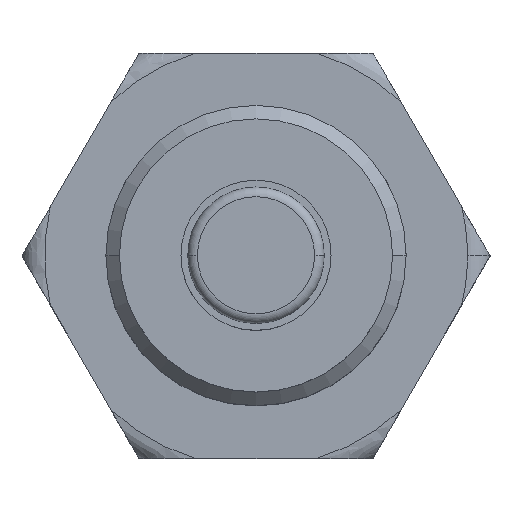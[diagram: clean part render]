
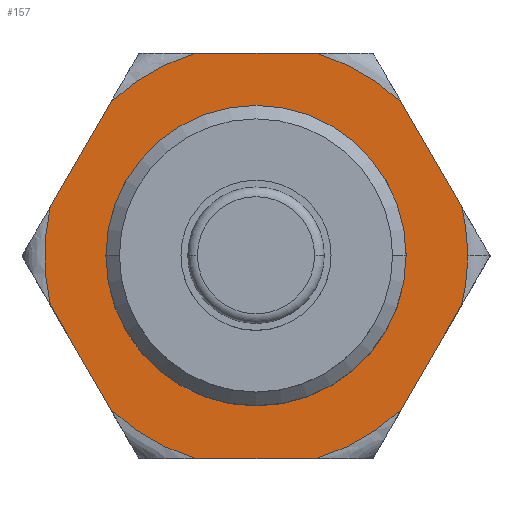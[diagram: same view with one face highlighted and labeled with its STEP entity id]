
A CAD part, top view. The second image highlights one B-rep face of the part: STEP entity #157.
In plain terms, the highlighted planar face has unit normal (0, 0, 1).
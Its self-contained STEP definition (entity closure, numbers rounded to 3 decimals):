
#15 = AXIS2_PLACEMENT_3D ( 'NONE', #610, #923, #129 ) ;
#61 = EDGE_CURVE ( 'NONE', #1448, #1331, #260, .T. ) ;
#81 = CIRCLE ( 'NONE', #384, 14.088 ) ;
#101 = DIRECTION ( 'NONE',  ( 1., 0., 0. ) ) ;
#104 = DIRECTION ( 'NONE',  ( 0.5, -0.866, 0. ) ) ;
#127 = ORIENTED_EDGE ( 'NONE', *, *, #1570, .F. ) ;
#129 = DIRECTION ( 'NONE',  ( 1., 0., 0. ) ) ;
#144 = DIRECTION ( 'NONE',  ( -1., 0., 0. ) ) ;
#157 = ADVANCED_FACE ( 'NONE', ( #2060, #1544 ), #1425, .T. ) ;
#162 = ORIENTED_EDGE ( 'NONE', *, *, #1779, .T. ) ;
#184 = CIRCLE ( 'NONE', #1648, 14.088 ) ;
#198 = VERTEX_POINT ( 'NONE', #588 ) ;
#245 = ORIENTED_EDGE ( 'NONE', *, *, #1022, .T. ) ;
#254 = CIRCLE ( 'NONE', #1928, 14.088 ) ;
#260 = LINE ( 'NONE', #1533, #1710 ) ;
#284 = ORIENTED_EDGE ( 'NONE', *, *, #352, .T. ) ;
#290 = DIRECTION ( 'NONE',  ( 0., 0., 1. ) ) ;
#321 = CARTESIAN_POINT ( 'NONE',  ( 0., 0., 3. ) ) ;
#322 = VECTOR ( 'NONE', #1538, 1000. ) ;
#334 = DIRECTION ( 'NONE',  ( 0., 0., 1. ) ) ;
#348 = CIRCLE ( 'NONE', #1379, 14.088 ) ;
#351 = VECTOR ( 'NONE', #873, 1000. ) ;
#352 = EDGE_CURVE ( 'NONE', #744, #673, #348, .T. ) ;
#384 = AXIS2_PLACEMENT_3D ( 'NONE', #321, #693, #1023 ) ;
#394 = CARTESIAN_POINT ( 'NONE',  ( -13.706, 3.261, 3. ) ) ;
#419 = ORIENTED_EDGE ( 'NONE', *, *, #646, .T. ) ;
#437 = DIRECTION ( 'NONE',  ( 1., 0., 0. ) ) ;
#470 = DIRECTION ( 'NONE',  ( 0., 0., 1. ) ) ;
#478 = DIRECTION ( 'NONE',  ( 1., 0., 0. ) ) ;
#524 = EDGE_CURVE ( 'NONE', #1331, #2013, #184, .T. ) ;
#527 = CARTESIAN_POINT ( 'NONE',  ( 15.588, 0., 3. ) ) ;
#531 = CARTESIAN_POINT ( 'NONE',  ( 0., 0., 3. ) ) ;
#561 = CARTESIAN_POINT ( 'NONE',  ( -9.677, -10.239, 3. ) ) ;
#587 = CIRCLE ( 'NONE', #1952, 10. ) ;
#588 = CARTESIAN_POINT ( 'NONE',  ( -13.706, -3.261, 3. ) ) ;
#602 = EDGE_CURVE ( 'NONE', #1607, #1448, #1026, .T. ) ;
#606 = CARTESIAN_POINT ( 'NONE',  ( 0., 0., 3. ) ) ;
#609 = EDGE_LOOP ( 'NONE', ( #1372, #834, #1200, #284, #162, #720, #1081, #419, #1977, #886, #754, #1090, #245 ) ) ;
#610 = CARTESIAN_POINT ( 'NONE',  ( 0., 0., 3. ) ) ;
#622 = CARTESIAN_POINT ( 'NONE',  ( 15.588, 0., 3. ) ) ;
#631 = CARTESIAN_POINT ( 'NONE',  ( 4.029, 13.5, 3. ) ) ;
#633 = VECTOR ( 'NONE', #104, 1000. ) ;
#635 = CARTESIAN_POINT ( 'NONE',  ( -10., 0., 3. ) ) ;
#643 = CARTESIAN_POINT ( 'NONE',  ( 13.706, 3.261, 3. ) ) ;
#646 = EDGE_CURVE ( 'NONE', #769, #1739, #81, .T. ) ;
#656 = EDGE_CURVE ( 'NONE', #1406, #1599, #587, .T. ) ;
#673 = VERTEX_POINT ( 'NONE', #707 ) ;
#693 = DIRECTION ( 'NONE',  ( 0., 0., 1. ) ) ;
#707 = CARTESIAN_POINT ( 'NONE',  ( -9.677, 10.239, 3. ) ) ;
#720 = ORIENTED_EDGE ( 'NONE', *, *, #798, .T. ) ;
#730 = LINE ( 'NONE', #1670, #633 ) ;
#744 = VERTEX_POINT ( 'NONE', #2065 ) ;
#754 = ORIENTED_EDGE ( 'NONE', *, *, #61, .T. ) ;
#756 = CARTESIAN_POINT ( 'NONE',  ( 0., 0., 3. ) ) ;
#761 = AXIS2_PLACEMENT_3D ( 'NONE', #622, #1558, #1386 ) ;
#769 = VERTEX_POINT ( 'NONE', #561 ) ;
#798 = EDGE_CURVE ( 'NONE', #1403, #198, #1617, .T. ) ;
#818 = CARTESIAN_POINT ( 'NONE',  ( 4.029, -13.5, 3. ) ) ;
#822 = DIRECTION ( 'NONE',  ( 1., 0., 0. ) ) ;
#834 = ORIENTED_EDGE ( 'NONE', *, *, #1937, .T. ) ;
#873 = DIRECTION ( 'NONE',  ( -0.5, 0.866, 0. ) ) ;
#879 = CARTESIAN_POINT ( 'NONE',  ( -7.794, 13.5, 3. ) ) ;
#886 = ORIENTED_EDGE ( 'NONE', *, *, #602, .T. ) ;
#893 = VECTOR ( 'NONE', #1370, 1000. ) ;
#923 = DIRECTION ( 'NONE',  ( 0., 0., 1. ) ) ;
#939 = CARTESIAN_POINT ( 'NONE',  ( 0., 0., 3. ) ) ;
#972 = EDGE_CURVE ( 'NONE', #1906, #1044, #1954, .T. ) ;
#1003 = EDGE_LOOP ( 'NONE', ( #127, #1657 ) ) ;
#1022 = EDGE_CURVE ( 'NONE', #2013, #1906, #1553, .T. ) ;
#1023 = DIRECTION ( 'NONE',  ( 1., 0., 0. ) ) ;
#1026 = CIRCLE ( 'NONE', #1212, 14.088 ) ;
#1044 = VERTEX_POINT ( 'NONE', #1071 ) ;
#1054 = LINE ( 'NONE', #879, #322 ) ;
#1057 = CARTESIAN_POINT ( 'NONE',  ( 9.677, -10.239, 3. ) ) ;
#1071 = CARTESIAN_POINT ( 'NONE',  ( 9.677, 10.239, 3. ) ) ;
#1081 = ORIENTED_EDGE ( 'NONE', *, *, #1459, .T. ) ;
#1090 = ORIENTED_EDGE ( 'NONE', *, *, #524, .T. ) ;
#1107 = DIRECTION ( 'NONE',  ( 1., 0., 0. ) ) ;
#1115 = CARTESIAN_POINT ( 'NONE',  ( 7.794, 13.5, 3. ) ) ;
#1126 = CIRCLE ( 'NONE', #1720, 10. ) ;
#1131 = CARTESIAN_POINT ( 'NONE',  ( 0., 0., 3. ) ) ;
#1175 = CARTESIAN_POINT ( 'NONE',  ( 13.706, -3.261, 3. ) ) ;
#1195 = CARTESIAN_POINT ( 'NONE',  ( 10., 0., 3. ) ) ;
#1200 = ORIENTED_EDGE ( 'NONE', *, *, #1938, .T. ) ;
#1212 = AXIS2_PLACEMENT_3D ( 'NONE', #1255, #470, #437 ) ;
#1255 = CARTESIAN_POINT ( 'NONE',  ( 0., 0., 3. ) ) ;
#1315 = DIRECTION ( 'NONE',  ( 0., 0., 1. ) ) ;
#1331 = VERTEX_POINT ( 'NONE', #1175 ) ;
#1336 = DIRECTION ( 'NONE',  ( 1., 0., 0. ) ) ;
#1351 = LINE ( 'NONE', #1540, #893 ) ;
#1370 = DIRECTION ( 'NONE',  ( 1., 0., 0. ) ) ;
#1371 = CARTESIAN_POINT ( 'NONE',  ( 0., 0., 3. ) ) ;
#1372 = ORIENTED_EDGE ( 'NONE', *, *, #972, .T. ) ;
#1379 = AXIS2_PLACEMENT_3D ( 'NONE', #1131, #334, #822 ) ;
#1386 = DIRECTION ( 'NONE',  ( 1., 0., 0. ) ) ;
#1403 = VERTEX_POINT ( 'NONE', #394 ) ;
#1406 = VERTEX_POINT ( 'NONE', #1195 ) ;
#1418 = VECTOR ( 'NONE', #144, 1000. ) ;
#1420 = EDGE_CURVE ( 'NONE', #1739, #1607, #1351, .T. ) ;
#1425 = PLANE ( 'NONE',  #761 ) ;
#1428 = DIRECTION ( 'NONE',  ( 0., 0., 1. ) ) ;
#1448 = VERTEX_POINT ( 'NONE', #1057 ) ;
#1459 = EDGE_CURVE ( 'NONE', #198, #769, #730, .T. ) ;
#1495 = CARTESIAN_POINT ( 'NONE',  ( -4.029, -13.5, 3. ) ) ;
#1533 = CARTESIAN_POINT ( 'NONE',  ( 7.794, -13.5, 3. ) ) ;
#1538 = DIRECTION ( 'NONE',  ( -0.5, -0.866, 0. ) ) ;
#1540 = CARTESIAN_POINT ( 'NONE',  ( -7.794, -13.5, 3. ) ) ;
#1544 = FACE_BOUND ( 'NONE', #1003, .T. ) ;
#1553 = CIRCLE ( 'NONE', #15, 14.088 ) ;
#1558 = DIRECTION ( 'NONE',  ( 0., 0., 1. ) ) ;
#1570 = EDGE_CURVE ( 'NONE', #1599, #1406, #1126, .T. ) ;
#1573 = LINE ( 'NONE', #1115, #1418 ) ;
#1599 = VERTEX_POINT ( 'NONE', #635 ) ;
#1607 = VERTEX_POINT ( 'NONE', #818 ) ;
#1617 = CIRCLE ( 'NONE', #1887, 14.088 ) ;
#1648 = AXIS2_PLACEMENT_3D ( 'NONE', #1371, #290, #1703 ) ;
#1657 = ORIENTED_EDGE ( 'NONE', *, *, #656, .F. ) ;
#1660 = DIRECTION ( 'NONE',  ( 0., 0., 1. ) ) ;
#1670 = CARTESIAN_POINT ( 'NONE',  ( -15.588, 0., 3. ) ) ;
#1703 = DIRECTION ( 'NONE',  ( 1., 0., 0. ) ) ;
#1710 = VECTOR ( 'NONE', #1828, 1000. ) ;
#1720 = AXIS2_PLACEMENT_3D ( 'NONE', #606, #1917, #1107 ) ;
#1739 = VERTEX_POINT ( 'NONE', #1495 ) ;
#1779 = EDGE_CURVE ( 'NONE', #673, #1403, #1054, .T. ) ;
#1828 = DIRECTION ( 'NONE',  ( 0.5, 0.866, 0. ) ) ;
#1869 = VERTEX_POINT ( 'NONE', #631 ) ;
#1887 = AXIS2_PLACEMENT_3D ( 'NONE', #756, #1660, #101 ) ;
#1906 = VERTEX_POINT ( 'NONE', #643 ) ;
#1917 = DIRECTION ( 'NONE',  ( 0., 0., 1. ) ) ;
#1928 = AXIS2_PLACEMENT_3D ( 'NONE', #939, #1428, #478 ) ;
#1930 = CARTESIAN_POINT ( 'NONE',  ( 14.088, 0., 3. ) ) ;
#1937 = EDGE_CURVE ( 'NONE', #1044, #1869, #254, .T. ) ;
#1938 = EDGE_CURVE ( 'NONE', #1869, #744, #1573, .T. ) ;
#1952 = AXIS2_PLACEMENT_3D ( 'NONE', #531, #1315, #1336 ) ;
#1954 = LINE ( 'NONE', #527, #351 ) ;
#1977 = ORIENTED_EDGE ( 'NONE', *, *, #1420, .T. ) ;
#2013 = VERTEX_POINT ( 'NONE', #1930 ) ;
#2060 = FACE_OUTER_BOUND ( 'NONE', #609, .T. ) ;
#2065 = CARTESIAN_POINT ( 'NONE',  ( -4.029, 13.5, 3. ) ) ;
